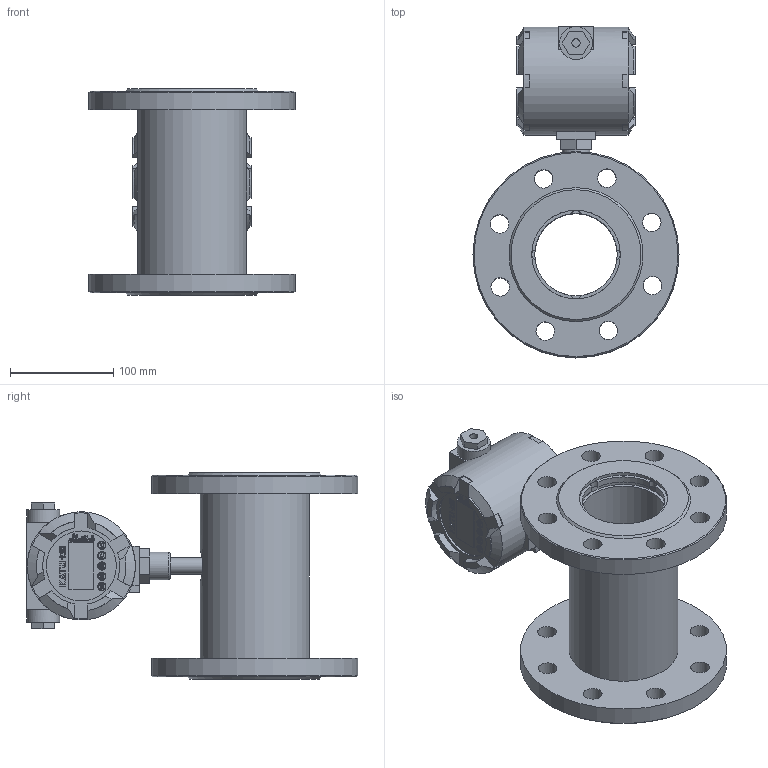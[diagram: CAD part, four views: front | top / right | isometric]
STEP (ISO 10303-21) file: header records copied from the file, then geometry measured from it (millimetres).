
FILE_DESCRIPTION( (''), '2;1');
FILE_NAME( 'QTKC_DN80_flange_Ex.step', '2024-10-14T10:30:23+08:00', (''), (''), '', '', '');
FILE_SCHEMA (('AUTOMOTIVE_DESIGN { 1 0 10303 214 3 1 1 1 }'));
Length unit declared in the file: millimetre
Products named in the file (1): QTKC DN80_flange_Ex
Bounding box: 200 x 322 x 200 mm (x, y, z)
Volume: 2444599.2 mm3; surface area: 315257.8 mm2
Topology: 4 solids, 4 shells, 1374 faces, 3768 edges, 2510 vertices
Faces by surface type: plane 736, extrusion 504, cylinder 106, cone 18, torus 6, bspline 4
Full cylindrical faces by diameter (mm): 3.3 x1, 8 x2, 16 x1, 16.5 x1, 18 x16, 18.5 x1, 20 x2, 27 x1, 32 x2, 68 x1, 80 x1, 86 x2, 87.347 x2, 105 x1, 106 x1, 200 x2
Entity records: 46557 total; most frequent: CARTESIAN_POINT 13856, ORIENTED_EDGE 7370, DIRECTION 5087, EDGE_CURVE 3685, VECTOR 2801, VERTEX_POINT 2476, LINE 2297, B_SPLINE_CURVE_WITH_KNOTS 1616
